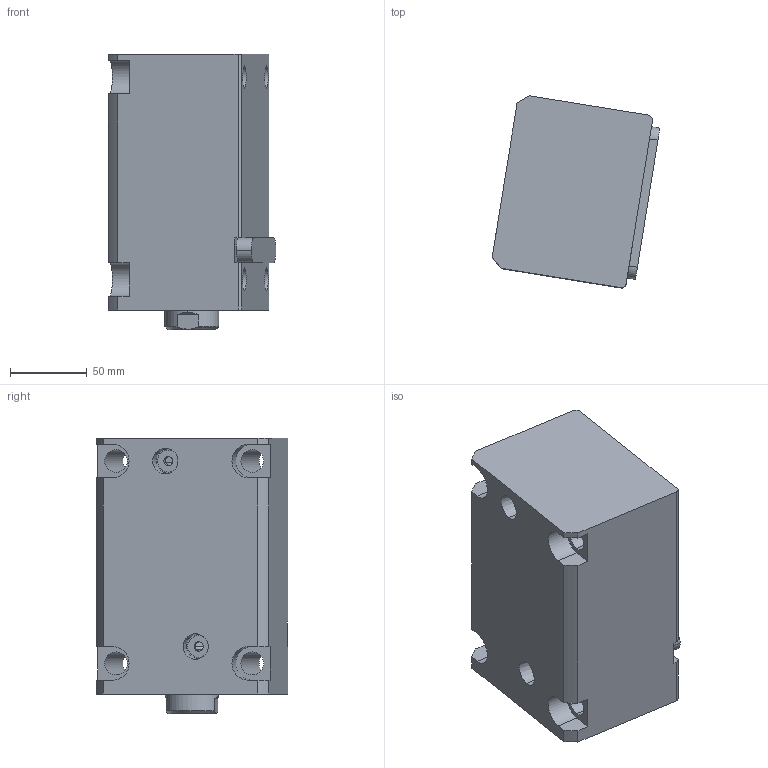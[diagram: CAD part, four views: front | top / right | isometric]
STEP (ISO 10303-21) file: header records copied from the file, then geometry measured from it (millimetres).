
FILE_DESCRIPTION (( 'STEP AP214' ), '1' );
FILE_NAME ('chtb-la63x100n_asm.STEP', '2018-05-02T04:03:27', ( 'Windows' ), ( 'Microsoft' ), 'SwSTEP 2.0', 'SolidWorks 2015', '' );
FILE_SCHEMA (( 'AUTOMOTIVE_DESIGN' ));
Length unit declared in the file: millimetre
Products named in the file (5): CHTB-LA63X100NBT; CHTB-LA63PJ; CHTB63X100NHSG; CHTB-63QG; chtb-la63x100n_asm
Assembly tree (4 placements, depth 2):
  chtb-la63x100n_asm
    CHTB-63QG
    CHTB63X100NHSG
    CHTB-LA63PJ
    CHTB-LA63X100NBT
Bounding box: 109.43 x 125.22 x 180 mm (x, y, z)
Volume: 1399179.9 mm3; surface area: 187404.6 mm2
Topology: 4 solids, 4 shells, 174 faces, 510 edges, 348 vertices
Faces by surface type: cylinder 98, plane 45, bspline 12, cone 12, torus 7
Entity records: 18197 total; most frequent: CARTESIAN_POINT 13676, ORIENTED_EDGE 1008, DIRECTION 778, EDGE_CURVE 504, VERTEX_POINT 348, AXIS2_PLACEMENT_3D 295, EDGE_LOOP 198, LINE 188
